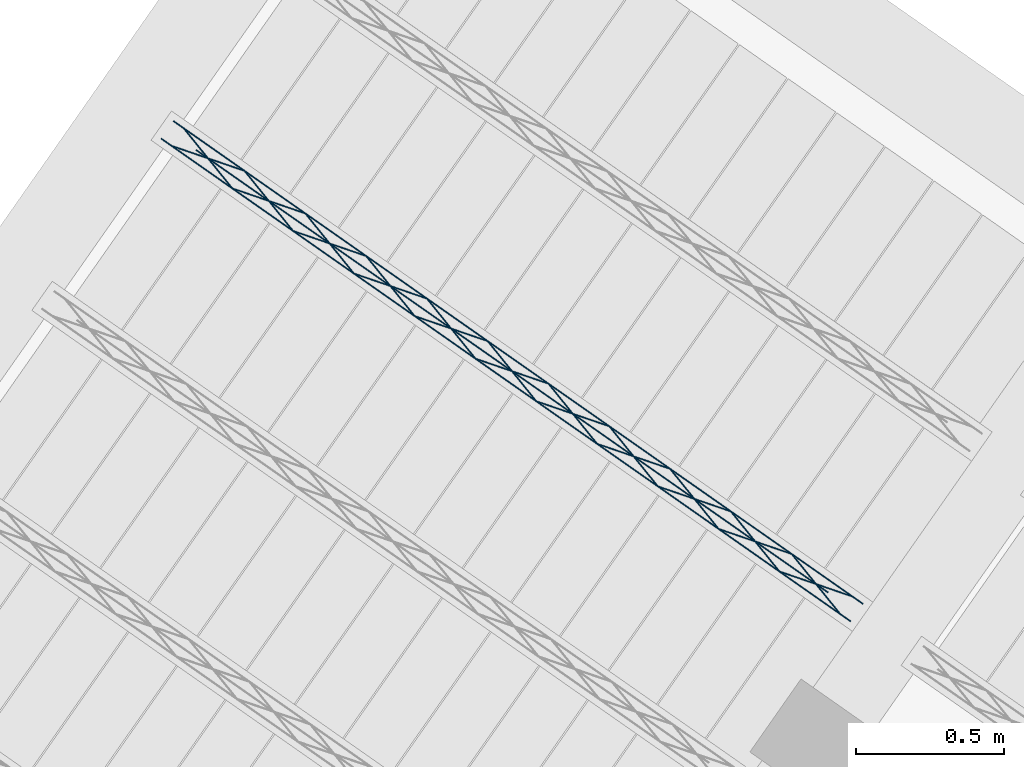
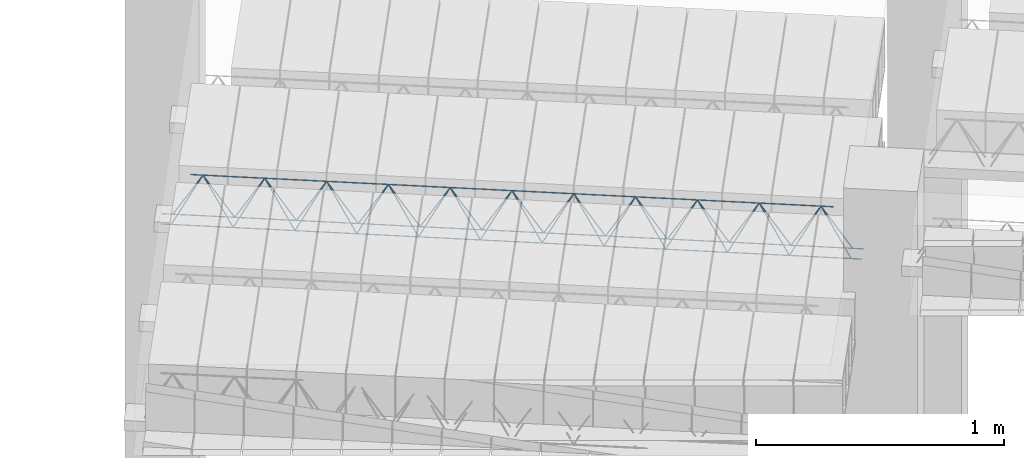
# One storey, part 39 of 80: 1 member.
"""IFC2X3 building model written with IfcOpenShell, lengths in metres."""

from ifc_helpers import new_model, entity, si_unit, converted_unit, derived_unit, direction, frame, origin, origin_2d_with_axis, place, context, subcontext, project, spatial, circle, extrude, type_object, element, save


model = new_model("IFC2X3")

# Units and contexts
model_context = context("Model", 3, precision=1e-05, world=origin(), true_north=direction((6.123031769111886e-17, 1.0)))
body_context = subcontext(model_context, "Body", "Model", "MODEL_VIEW")
ifc_project = project(units=[si_unit("LENGTHUNIT", "METRE"), si_unit("AREAUNIT", "SQUARE_METRE"), si_unit("VOLUMEUNIT", "CUBIC_METRE"), converted_unit("PLANEANGLEUNIT", "DEGREE", entity("IfcPlaneAngleMeasure", 0.017453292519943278), si_unit("PLANEANGLEUNIT", "RADIAN"), dimensions=[0, 0, 0, 0, 0, 0, 0]), si_unit("MASSUNIT", "GRAM", prefix="KILO"), derived_unit("MASSDENSITYUNIT", [(si_unit("MASSUNIT", "GRAM", prefix="KILO"), 1), (si_unit("LENGTHUNIT", "METRE"), -3)]), derived_unit("IONCONCENTRATIONUNIT", [(si_unit("MASSUNIT", "GRAM", prefix="KILO"), 1), (si_unit("LENGTHUNIT", "METRE"), -3)]), derived_unit("MOMENTOFINERTIAUNIT", [(si_unit("LENGTHUNIT", "METRE"), 4)]), si_unit("TIMEUNIT", "SECOND"), si_unit("FREQUENCYUNIT", "HERTZ"), si_unit("THERMODYNAMICTEMPERATUREUNIT", "DEGREE_CELSIUS"), derived_unit("THERMALTRANSMITTANCEUNIT", [(si_unit("MASSUNIT", "GRAM", prefix="KILO"), 1), (si_unit("THERMODYNAMICTEMPERATUREUNIT", "KELVIN"), -1), (si_unit("TIMEUNIT", "SECOND"), -3)]), derived_unit("THERMALCONDUCTANCEUNIT", [(si_unit("MASSUNIT", "GRAM", prefix="KILO"), 1), (si_unit("THERMODYNAMICTEMPERATUREUNIT", "KELVIN"), -1), (si_unit("TIMEUNIT", "SECOND"), -3), (si_unit("LENGTHUNIT", "METRE"), 1)]), derived_unit("VOLUMETRICFLOWRATEUNIT", [(si_unit("LENGTHUNIT", "METRE", prefix="DECI"), 3), (si_unit("TIMEUNIT", "SECOND"), -1)]), derived_unit("MASSFLOWRATEUNIT", [(si_unit("MASSUNIT", "GRAM", prefix="KILO"), 1), (si_unit("TIMEUNIT", "SECOND"), -1)]), derived_unit("ROTATIONALFREQUENCYUNIT", [(si_unit("TIMEUNIT", "SECOND"), -1)]), si_unit("ELECTRICCURRENTUNIT", "AMPERE"), si_unit("ELECTRICVOLTAGEUNIT", "VOLT"), si_unit("POWERUNIT", "WATT"), si_unit("FORCEUNIT", "NEWTON", prefix="KILO"), si_unit("ILLUMINANCEUNIT", "LUX"), si_unit("LUMINOUSFLUXUNIT", "LUMEN"), si_unit("LUMINOUSINTENSITYUNIT", "CANDELA"), si_unit("ENERGYUNIT", "JOULE"), derived_unit("USERDEFINED", [(si_unit("MASSUNIT", "GRAM", prefix="KILO"), -1), (si_unit("LENGTHUNIT", "METRE"), -2), (si_unit("TIMEUNIT", "SECOND"), 3), (si_unit("LUMINOUSFLUXUNIT", "LUMEN"), 1)]), derived_unit("USERDEFINED", [(si_unit("MASSUNIT", "GRAM", prefix="KILO"), 1), (si_unit("TIMEUNIT", "SECOND"), -3), (si_unit("LENGTHUNIT", "METRE"), 3), (si_unit("ELECTRICCURRENTUNIT", "AMPERE"), -2)]), derived_unit("SOUNDPOWERUNIT", [(si_unit("MASSUNIT", "GRAM", prefix="KILO"), 1), (si_unit("TIMEUNIT", "SECOND"), -3), (si_unit("LENGTHUNIT", "METRE"), 2)]), derived_unit("SOUNDPRESSUREUNIT", [(si_unit("MASSUNIT", "GRAM", prefix="KILO"), 1), (si_unit("LENGTHUNIT", "METRE"), -1), (si_unit("TIMEUNIT", "SECOND"), -2)]), derived_unit("LINEARVELOCITYUNIT", [(si_unit("LENGTHUNIT", "METRE"), 1), (si_unit("TIMEUNIT", "SECOND"), -1)]), si_unit("PRESSUREUNIT", "PASCAL"), derived_unit("USERDEFINED", [(si_unit("MASSUNIT", "GRAM", prefix="KILO"), 1), (si_unit("LENGTHUNIT", "METRE"), -2), (si_unit("TIMEUNIT", "SECOND"), -2)]), derived_unit("LINEARFORCEUNIT", [(si_unit("MASSUNIT", "GRAM", prefix="KILO"), 1), (si_unit("TIMEUNIT", "SECOND"), -2)]), derived_unit("PLANARFORCEUNIT", [(si_unit("MASSUNIT", "GRAM", prefix="KILO"), 1), (si_unit("LENGTHUNIT", "METRE"), -1), (si_unit("TIMEUNIT", "SECOND"), -2)]), derived_unit("SPECIFICHEATCAPACITYUNIT", [(si_unit("THERMODYNAMICTEMPERATUREUNIT", "KELVIN"), -1), (si_unit("LENGTHUNIT", "METRE"), 2), (si_unit("TIMEUNIT", "SECOND"), -2)]), derived_unit("HEATFLUXDENSITYUNIT", [(si_unit("MASSUNIT", "GRAM", prefix="KILO"), 1), (si_unit("TIMEUNIT", "SECOND"), -3)]), derived_unit("HEATINGVALUEUNIT", [(si_unit("LENGTHUNIT", "METRE"), 2), (si_unit("TIMEUNIT", "SECOND"), -2)]), derived_unit("VAPORPERMEABILITYUNIT", [(si_unit("LENGTHUNIT", "METRE"), -1), (si_unit("TIMEUNIT", "SECOND"), 1)]), derived_unit("DYNAMICVISCOSITYUNIT", [(si_unit("MASSUNIT", "GRAM", prefix="KILO"), 1), (si_unit("TIMEUNIT", "SECOND"), -1), (si_unit("LENGTHUNIT", "METRE"), -1)]), derived_unit("THERMALEXPANSIONCOEFFICIENTUNIT", [(si_unit("THERMODYNAMICTEMPERATUREUNIT", "KELVIN"), -1)]), derived_unit("MODULUSOFELASTICITYUNIT", [(si_unit("MASSUNIT", "GRAM", prefix="KILO"), 1), (si_unit("LENGTHUNIT", "METRE"), -1), (si_unit("TIMEUNIT", "SECOND"), -2)]), derived_unit("ISOTHERMALMOISTURECAPACITYUNIT", [(si_unit("MASSUNIT", "GRAM", prefix="KILO"), -1), (si_unit("LENGTHUNIT", "METRE"), 3)]), derived_unit("MOISTUREDIFFUSIVITYUNIT", [(si_unit("TIMEUNIT", "SECOND"), -1), (si_unit("LENGTHUNIT", "METRE"), 2)]), derived_unit("MASSPERLENGTHUNIT", [(si_unit("MASSUNIT", "GRAM", prefix="KILO"), 1), (si_unit("LENGTHUNIT", "METRE"), -1)]), derived_unit("THERMALRESISTANCEUNIT", [(si_unit("MASSUNIT", "GRAM", prefix="KILO"), -1), (si_unit("TIMEUNIT", "SECOND"), 3), (si_unit("THERMODYNAMICTEMPERATUREUNIT", "KELVIN"), 1)]), derived_unit("ACCELERATIONUNIT", [(si_unit("LENGTHUNIT", "METRE"), 1), (si_unit("TIMEUNIT", "SECOND"), -2)]), derived_unit("ANGULARVELOCITYUNIT", [(si_unit("TIMEUNIT", "SECOND"), -1), (si_unit("PLANEANGLEUNIT", "RADIAN"), 1)]), derived_unit("LINEARSTIFFNESSUNIT", [(si_unit("MASSUNIT", "GRAM", prefix="KILO"), 1), (si_unit("TIMEUNIT", "SECOND"), -2)]), derived_unit("WARPINGCONSTANTUNIT", [(si_unit("LENGTHUNIT", "METRE"), 6)]), derived_unit("LINEARMOMENTUNIT", [(si_unit("MASSUNIT", "GRAM", prefix="KILO"), 1), (si_unit("LENGTHUNIT", "METRE"), 1), (si_unit("TIMEUNIT", "SECOND"), -2)]), derived_unit("TORQUEUNIT", [(si_unit("MASSUNIT", "GRAM", prefix="KILO"), 1), (si_unit("LENGTHUNIT", "METRE"), 2), (si_unit("TIMEUNIT", "SECOND"), -2)])], contexts=[model_context])

# Site, building, storey
site_placement = place(None, origin())
site = spatial("IfcSite", under=ifc_project, at=site_placement, Name="Default", CompositionType="ELEMENT")
building_placement = place(site_placement, origin())
building = spatial("IfcBuilding", under=site, at=building_placement, CompositionType="ELEMENT")
storey_placement = place(building_placement, frame((0.0, 0.0, 95.94)))
storey = spatial("IfcBuildingStorey", under=building, at=storey_placement, Name="PB", CompositionType="ELEMENT", Elevation=95.94)

# Member
member_type = type_object("IfcMemberType", Name="Celosía (Vigueta 13 - Paño 2)", PredefinedType="NOTDEFINED")
member_placement = place(storey_placement, origin())
element("IfcMember", 1, at=member_placement, inside=storey, type_object=member_type, Name="Celosía (Vigueta 13 - Paño 2)", context=body_context, shape_type="SweptSolid", body=[
    extrude(circle(Radius=0.0025, at=origin_2d_with_axis()), frame((5.960543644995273, 7.9294861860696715, 2.8449999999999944), z_axis=(-0.8191520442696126, 0.5735764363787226, 0.0), x_axis=(-0.5735764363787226, -0.8191520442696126, 0.0)), (0.0, 0.0, 1.0), 2.836356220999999),
    extrude(circle(Radius=0.0025, at=origin_2d_with_axis()), frame((3.754591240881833, 9.51805857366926, 3.069999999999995), z_axis=(0.8191520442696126, -0.5735764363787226, 0.0), x_axis=(-0.5735764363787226, -0.8191520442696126, 0.0)), (0.0, 0.0, 1.0), 2.599999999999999),
    extrude(circle(Radius=0.0025, at=origin_2d_with_axis()), frame((5.925174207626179, 7.954252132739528, 2.8449999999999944), z_axis=(-0.3145304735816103, 0.389334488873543, 0.8657304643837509), x_axis=(-0.7778747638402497, -0.6284193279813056, 0.0)), (0.0, 0.0, 1.0), 0.2598961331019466),
    extrude(circle(Radius=0.0025, at=origin_2d_with_axis()), frame((5.720386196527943, 8.097646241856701, 2.8449999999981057), z_axis=(0.47343050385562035, -0.1624017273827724, 0.8657304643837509), x_axis=(-0.3244721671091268, -0.9458952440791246, 0.0)), (0.0, 0.0, 1.0), 0.25989613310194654),
    extrude(circle(Radius=0.0025, at=origin_2d_with_axis()), frame((5.720386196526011, 8.09764624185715, 2.8449999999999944), z_axis=(-0.3145304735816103, 0.389334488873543, 0.8657304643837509), x_axis=(-0.7778747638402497, -0.6284193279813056, 0.0)), (0.0, 0.0, 1.0), 0.2598961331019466),
    extrude(circle(Radius=0.0025, at=origin_2d_with_axis()), frame((5.51559818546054, 8.241040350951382, 2.8449999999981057), z_axis=(0.47343050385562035, -0.1624017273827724, 0.8657304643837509), x_axis=(-0.3244721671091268, -0.9458952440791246, 0.0)), (0.0, 0.0, 1.0), 0.25989613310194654),
    extrude(circle(Radius=0.0025, at=origin_2d_with_axis()), frame((5.5155981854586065, 8.241040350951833, 2.8449999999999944), z_axis=(-0.3145304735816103, 0.389334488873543, 0.8657304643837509), x_axis=(-0.7778747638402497, -0.6284193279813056, 0.0)), (0.0, 0.0, 1.0), 0.2598961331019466),
    extrude(circle(Radius=0.0025, at=origin_2d_with_axis()), frame((5.310810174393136, 8.38443446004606, 2.8449999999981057), z_axis=(0.47343050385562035, -0.1624017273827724, 0.8657304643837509), x_axis=(-0.3244721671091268, -0.9458952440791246, 0.0)), (0.0, 0.0, 1.0), 0.25989613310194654),
    extrude(circle(Radius=0.0025, at=origin_2d_with_axis()), frame((5.310810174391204, 8.384434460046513, 2.8449999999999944), z_axis=(-0.3145304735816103, 0.389334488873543, 0.8657304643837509), x_axis=(-0.7778747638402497, -0.6284193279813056, 0.0)), (0.0, 0.0, 1.0), 0.2598961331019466),
    extrude(circle(Radius=0.0025, at=origin_2d_with_axis()), frame((5.106022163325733, 8.527828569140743, 2.8449999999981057), z_axis=(0.47343050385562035, -0.1624017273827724, 0.8657304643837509), x_axis=(-0.3244721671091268, -0.9458952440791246, 0.0)), (0.0, 0.0, 1.0), 0.25989613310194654),
    extrude(circle(Radius=0.0025, at=origin_2d_with_axis()), frame((5.1060221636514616, 8.527828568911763, 2.8449999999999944), z_axis=(-0.3145304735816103, 0.389334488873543, 0.8657304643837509), x_axis=(-0.7778747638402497, -0.6284193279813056, 0.0)), (0.0, 0.0, 1.0), 0.2598961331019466),
    extrude(circle(Radius=0.0025, at=origin_2d_with_axis()), frame((4.9012341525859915, 8.671222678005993, 2.8449999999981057), z_axis=(0.47343050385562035, -0.1624017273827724, 0.8657304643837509), x_axis=(-0.3244721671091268, -0.9458952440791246, 0.0)), (0.0, 0.0, 1.0), 0.25989613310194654),
    extrude(circle(Radius=0.0025, at=origin_2d_with_axis()), frame((4.901234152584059, 8.671222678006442, 2.8449999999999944), z_axis=(-0.3145304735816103, 0.389334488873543, 0.8657304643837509), x_axis=(-0.7778747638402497, -0.6284193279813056, 0.0)), (0.0, 0.0, 1.0), 0.2598961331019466),
    extrude(circle(Radius=0.0025, at=origin_2d_with_axis()), frame((4.696446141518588, 8.814616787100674, 2.8449999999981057), z_axis=(0.47343050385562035, -0.1624017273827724, 0.8657304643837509), x_axis=(-0.3244721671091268, -0.9458952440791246, 0.0)), (0.0, 0.0, 1.0), 0.25989613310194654),
    extrude(circle(Radius=0.0025, at=origin_2d_with_axis()), frame((4.696446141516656, 8.814616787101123, 2.8449999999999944), z_axis=(-0.3145304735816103, 0.389334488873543, 0.8657304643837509), x_axis=(-0.7778747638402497, -0.6284193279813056, 0.0)), (0.0, 0.0, 1.0), 0.2598961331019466),
    extrude(circle(Radius=0.0025, at=origin_2d_with_axis()), frame((4.491658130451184, 8.958010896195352, 2.8449999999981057), z_axis=(0.47343050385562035, -0.1624017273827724, 0.8657304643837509), x_axis=(-0.3244721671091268, -0.9458952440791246, 0.0)), (0.0, 0.0, 1.0), 0.25989613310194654),
    extrude(circle(Radius=0.0025, at=origin_2d_with_axis()), frame((4.491658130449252, 8.958010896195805, 2.8449999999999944), z_axis=(-0.3145304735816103, 0.389334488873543, 0.8657304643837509), x_axis=(-0.7778747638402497, -0.6284193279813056, 0.0)), (0.0, 0.0, 1.0), 0.2598961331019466),
    extrude(circle(Radius=0.0025, at=origin_2d_with_axis()), frame((4.2868701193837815, 9.101405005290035, 2.8449999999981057), z_axis=(0.47343050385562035, -0.1624017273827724, 0.8657304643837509), x_axis=(-0.3244721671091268, -0.9458952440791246, 0.0)), (0.0, 0.0, 1.0), 0.25989613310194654),
    extrude(circle(Radius=0.0025, at=origin_2d_with_axis()), frame((4.286870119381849, 9.101405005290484, 2.8449999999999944), z_axis=(-0.3145304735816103, 0.389334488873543, 0.8657304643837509), x_axis=(-0.7778747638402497, -0.6284193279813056, 0.0)), (0.0, 0.0, 1.0), 0.2598961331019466),
    extrude(circle(Radius=0.0025, at=origin_2d_with_axis()), frame((4.082082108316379, 9.244799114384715, 2.8449999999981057), z_axis=(0.47343050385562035, -0.1624017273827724, 0.8657304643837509), x_axis=(-0.3244721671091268, -0.9458952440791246, 0.0)), (0.0, 0.0, 1.0), 0.25989613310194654),
    extrude(circle(Radius=0.0025, at=origin_2d_with_axis()), frame((4.082082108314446, 9.244799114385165, 2.8449999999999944), z_axis=(-0.3145304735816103, 0.389334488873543, 0.8657304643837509), x_axis=(-0.7778747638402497, -0.6284193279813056, 0.0)), (0.0, 0.0, 1.0), 0.2598961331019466),
    extrude(circle(Radius=0.0025, at=origin_2d_with_axis()), frame((3.877294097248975, 9.388193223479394, 2.8449999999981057), z_axis=(0.47343050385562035, -0.1624017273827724, 0.8657304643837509), x_axis=(-0.3244721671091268, -0.9458952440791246, 0.0)), (0.0, 0.0, 1.0), 0.25989613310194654),
    extrude(circle(Radius=0.0025, at=origin_2d_with_axis()), frame((3.8772940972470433, 9.388193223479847, 2.8449999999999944), z_axis=(-0.3145304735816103, 0.389334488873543, 0.8657304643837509), x_axis=(-0.7778747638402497, -0.6284193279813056, 0.0)), (0.0, 0.0, 1.0), 0.2598961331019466),
    extrude(circle(Radius=0.0025, at=origin_2d_with_axis()), frame((3.672506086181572, 9.531587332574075, 2.8449999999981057), z_axis=(0.47343050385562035, -0.1624017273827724, 0.8657304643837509), x_axis=(-0.3244721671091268, -0.9458952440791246, 0.0)), (0.0, 0.0, 1.0), 0.25989613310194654),
    extrude(circle(Radius=0.0025, at=origin_2d_with_axis()), frame((6.00184114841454, 7.988465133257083, 2.8449999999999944), z_axis=(-0.8191520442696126, 0.5735764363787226, 0.0), x_axis=(-0.5735764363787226, -0.8191520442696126, 0.0)), (0.0, 0.0, 1.0), 2.836356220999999),
    extrude(circle(Radius=0.0025, at=origin_2d_with_axis()), frame((5.966471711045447, 8.01323107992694, 2.8449999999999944), z_axis=(-0.47343050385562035, 0.1624017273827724, 0.8657304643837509), x_axis=(-0.3244721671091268, -0.9458952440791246, 0.0)), (0.0, 0.0, 1.0), 0.25989613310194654),
    extrude(circle(Radius=0.0025, at=origin_2d_with_axis()), frame((5.761683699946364, 8.156625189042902, 2.8449999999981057), z_axis=(0.3145304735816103, -0.389334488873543, 0.8657304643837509), x_axis=(-0.7778747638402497, -0.6284193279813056, 0.0)), (0.0, 0.0, 1.0), 0.2598961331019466),
    extrude(circle(Radius=0.0025, at=origin_2d_with_axis()), frame((5.761683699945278, 8.156625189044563, 2.8449999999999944), z_axis=(-0.47343050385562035, 0.1624017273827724, 0.8657304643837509), x_axis=(-0.3244721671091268, -0.9458952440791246, 0.0)), (0.0, 0.0, 1.0), 0.25989613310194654),
    extrude(circle(Radius=0.0025, at=origin_2d_with_axis()), frame((5.556895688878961, 8.300019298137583, 2.8449999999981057), z_axis=(0.3145304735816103, -0.389334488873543, 0.8657304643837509), x_axis=(-0.7778747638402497, -0.6284193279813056, 0.0)), (0.0, 0.0, 1.0), 0.2598961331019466),
    extrude(circle(Radius=0.0025, at=origin_2d_with_axis()), frame((5.556895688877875, 8.300019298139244, 2.8449999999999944), z_axis=(-0.47343050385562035, 0.1624017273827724, 0.8657304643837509), x_axis=(-0.3244721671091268, -0.9458952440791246, 0.0)), (0.0, 0.0, 1.0), 0.25989613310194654),
    extrude(circle(Radius=0.0025, at=origin_2d_with_axis()), frame((5.352107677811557, 8.443413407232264, 2.8449999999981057), z_axis=(0.3145304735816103, -0.389334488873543, 0.8657304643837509), x_axis=(-0.7778747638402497, -0.6284193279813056, 0.0)), (0.0, 0.0, 1.0), 0.2598961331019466),
    extrude(circle(Radius=0.0025, at=origin_2d_with_axis()), frame((5.352107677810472, 8.443413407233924, 2.8449999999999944), z_axis=(-0.47343050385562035, 0.1624017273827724, 0.8657304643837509), x_axis=(-0.3244721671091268, -0.9458952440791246, 0.0)), (0.0, 0.0, 1.0), 0.25989613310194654),
    extrude(circle(Radius=0.0025, at=origin_2d_with_axis()), frame((5.147319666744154, 8.586807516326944, 2.8449999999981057), z_axis=(0.3145304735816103, -0.389334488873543, 0.8657304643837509), x_axis=(-0.7778747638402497, -0.6284193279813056, 0.0)), (0.0, 0.0, 1.0), 0.2598961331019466),
    extrude(circle(Radius=0.0025, at=origin_2d_with_axis()), frame((5.147319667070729, 8.586807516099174, 2.8449999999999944), z_axis=(-0.47343050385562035, 0.1624017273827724, 0.8657304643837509), x_axis=(-0.3244721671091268, -0.9458952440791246, 0.0)), (0.0, 0.0, 1.0), 0.25989613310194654),
    extrude(circle(Radius=0.0025, at=origin_2d_with_axis()), frame((4.942531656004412, 8.730201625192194, 2.8449999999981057), z_axis=(0.3145304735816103, -0.389334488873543, 0.8657304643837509), x_axis=(-0.7778747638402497, -0.6284193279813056, 0.0)), (0.0, 0.0, 1.0), 0.2598961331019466),
    extrude(circle(Radius=0.0025, at=origin_2d_with_axis()), frame((4.942531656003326, 8.730201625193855, 2.8449999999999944), z_axis=(-0.47343050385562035, 0.1624017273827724, 0.8657304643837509), x_axis=(-0.3244721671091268, -0.9458952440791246, 0.0)), (0.0, 0.0, 1.0), 0.25989613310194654),
    extrude(circle(Radius=0.0025, at=origin_2d_with_axis()), frame((4.737743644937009, 8.873595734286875, 2.8449999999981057), z_axis=(0.3145304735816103, -0.389334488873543, 0.8657304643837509), x_axis=(-0.7778747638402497, -0.6284193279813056, 0.0)), (0.0, 0.0, 1.0), 0.2598961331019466),
    extrude(circle(Radius=0.0025, at=origin_2d_with_axis()), frame((4.737743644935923, 8.873595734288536, 2.8449999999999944), z_axis=(-0.47343050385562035, 0.1624017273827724, 0.8657304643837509), x_axis=(-0.3244721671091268, -0.9458952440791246, 0.0)), (0.0, 0.0, 1.0), 0.25989613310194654),
    extrude(circle(Radius=0.0025, at=origin_2d_with_axis()), frame((4.532955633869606, 9.016989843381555, 2.8449999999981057), z_axis=(0.3145304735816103, -0.389334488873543, 0.8657304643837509), x_axis=(-0.7778747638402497, -0.6284193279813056, 0.0)), (0.0, 0.0, 1.0), 0.2598961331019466),
    extrude(circle(Radius=0.0025, at=origin_2d_with_axis()), frame((4.53295563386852, 9.016989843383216, 2.8449999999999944), z_axis=(-0.47343050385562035, 0.1624017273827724, 0.8657304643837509), x_axis=(-0.3244721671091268, -0.9458952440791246, 0.0)), (0.0, 0.0, 1.0), 0.25989613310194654),
    extrude(circle(Radius=0.0025, at=origin_2d_with_axis()), frame((4.328167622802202, 9.160383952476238, 2.8449999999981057), z_axis=(0.3145304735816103, -0.389334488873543, 0.8657304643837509), x_axis=(-0.7778747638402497, -0.6284193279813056, 0.0)), (0.0, 0.0, 1.0), 0.2598961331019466),
    extrude(circle(Radius=0.0025, at=origin_2d_with_axis()), frame((4.328167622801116, 9.160383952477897, 2.8449999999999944), z_axis=(-0.47343050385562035, 0.1624017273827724, 0.8657304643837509), x_axis=(-0.3244721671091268, -0.9458952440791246, 0.0)), (0.0, 0.0, 1.0), 0.25989613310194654),
    extrude(circle(Radius=0.0025, at=origin_2d_with_axis()), frame((4.1233796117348, 9.303778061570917, 2.8449999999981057), z_axis=(0.3145304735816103, -0.389334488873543, 0.8657304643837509), x_axis=(-0.7778747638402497, -0.6284193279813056, 0.0)), (0.0, 0.0, 1.0), 0.2598961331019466),
    extrude(circle(Radius=0.0025, at=origin_2d_with_axis()), frame((4.123379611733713, 9.303778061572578, 2.8449999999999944), z_axis=(-0.47343050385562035, 0.1624017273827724, 0.8657304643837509), x_axis=(-0.3244721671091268, -0.9458952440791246, 0.0)), (0.0, 0.0, 1.0), 0.25989613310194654),
    extrude(circle(Radius=0.0025, at=origin_2d_with_axis()), frame((3.918591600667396, 9.447172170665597, 2.8449999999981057), z_axis=(0.3145304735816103, -0.389334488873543, 0.8657304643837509), x_axis=(-0.7778747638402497, -0.6284193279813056, 0.0)), (0.0, 0.0, 1.0), 0.2598961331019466),
    extrude(circle(Radius=0.0025, at=origin_2d_with_axis()), frame((3.9185916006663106, 9.447172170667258, 2.8449999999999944), z_axis=(-0.47343050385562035, 0.1624017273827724, 0.8657304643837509), x_axis=(-0.3244721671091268, -0.9458952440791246, 0.0)), (0.0, 0.0, 1.0), 0.25989613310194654),
    extrude(circle(Radius=0.0025, at=origin_2d_with_axis()), frame((3.713803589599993, 9.590566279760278, 2.8449999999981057), z_axis=(0.3145304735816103, -0.389334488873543, 0.8657304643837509), x_axis=(-0.7778747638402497, -0.6284193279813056, 0.0)), (0.0, 0.0, 1.0), 0.2598961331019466),
])

save(model, "model.ifc")
